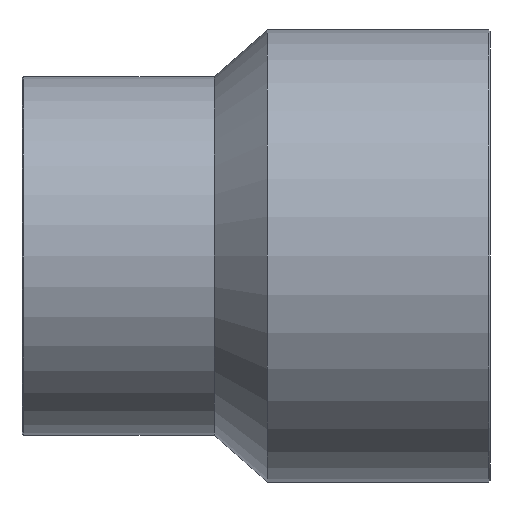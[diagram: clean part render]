
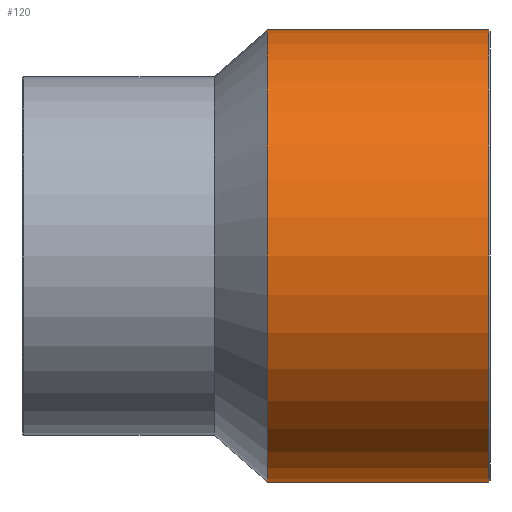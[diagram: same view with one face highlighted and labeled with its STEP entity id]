
A CAD part, front view. The second image highlights one B-rep face of the part: STEP entity #120.
In plain terms, the highlighted cylindrical face has radius 157.5 mm (diameter 315 mm), a full revolution.
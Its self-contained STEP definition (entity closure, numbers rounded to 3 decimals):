
#26=ORIENTED_EDGE('',*,*,#46,.T.);
#27=ORIENTED_EDGE('',*,*,#47,.F.);
#46=EDGE_CURVE('',#56,#56,#66,.T.);
#47=EDGE_CURVE('',#57,#57,#67,.T.);
#56=VERTEX_POINT('',#208);
#57=VERTEX_POINT('',#210);
#66=CIRCLE('',#144,157.5);
#67=CIRCLE('',#145,157.5);
#76=EDGE_LOOP('',(#26));
#77=EDGE_LOOP('',(#27));
#96=FACE_BOUND('',#76,.T.);
#97=FACE_BOUND('',#77,.T.);
#116=CYLINDRICAL_SURFACE('',#143,157.5);
#120=ADVANCED_FACE('',(#96,#97),#116,.T.);
#143=AXIS2_PLACEMENT_3D('',#206,#165,#166);
#144=AXIS2_PLACEMENT_3D('',#207,#167,#168);
#145=AXIS2_PLACEMENT_3D('',#209,#169,#170);
#165=DIRECTION('',(-1.,0.,0.));
#166=DIRECTION('',(0.,0.,1.));
#167=DIRECTION('',(-1.,0.,0.));
#168=DIRECTION('',(0.,0.,1.));
#169=DIRECTION('',(-1.,0.,0.));
#170=DIRECTION('',(0.,0.,1.));
#206=CARTESIAN_POINT('',(-60.,0.,0.));
#207=CARTESIAN_POINT('',(172.5,0.,0.));
#208=CARTESIAN_POINT('',(172.5,0.,157.5));
#209=CARTESIAN_POINT('',(18.5,0.,0.));
#210=CARTESIAN_POINT('',(18.5,0.,157.5));
